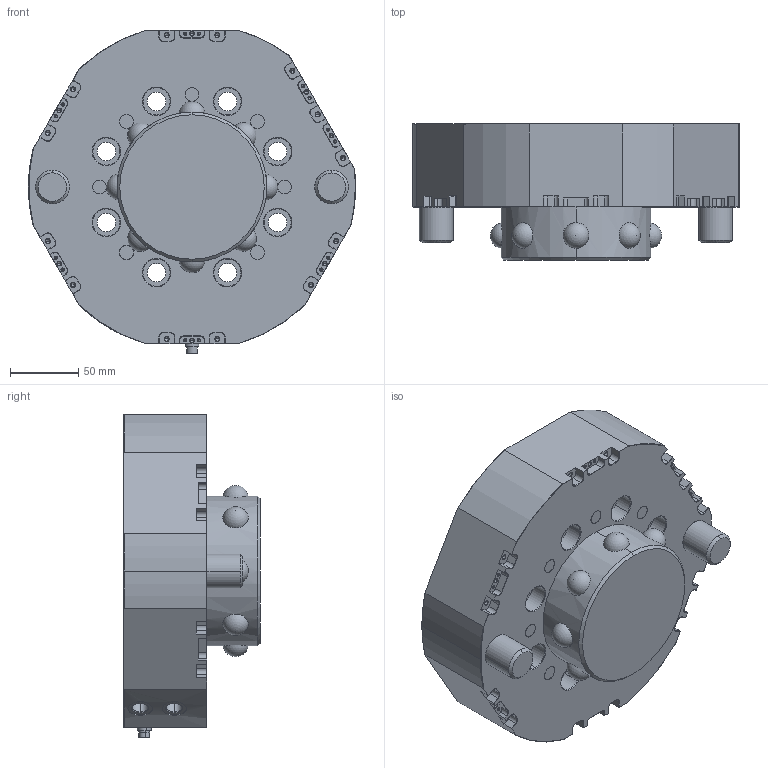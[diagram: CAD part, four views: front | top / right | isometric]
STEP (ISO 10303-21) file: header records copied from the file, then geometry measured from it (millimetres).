
FILE_DESCRIPTION (( 'STEP AP203' ), '1' );
FILE_NAME ('TSKP-M360-00主盘本体.STEP', '2021-08-12T09:32:41', ( '' ), ( '' ), 'SwSTEP 2.0', 'SolidWorks 2018', '' );
FILE_SCHEMA (( 'CONFIG_CONTROL_DESIGN' ));
Length unit declared in the file: millimetre
Products named in the file (1): TSKP-M360-00翋攫掛极
Bounding box: 240 x 100 x 237.3 mm (x, y, z)
Volume: 2912077.4 mm3; surface area: 210135.7 mm2
Topology: 1 solids, 15 shells, 1059 faces, 2535 edges, 1506 vertices
Faces by surface type: cylinder 376, plane 324, cone 266, torus 85, sphere 8
Entity records: 31300 total; most frequent: CARTESIAN_POINT 6878, DIRECTION 5394, ORIENTED_EDGE 4846, EDGE_CURVE 2423, AXIS2_PLACEMENT_3D 2077, VERTEX_POINT 1490, VECTOR 1240, LINE 1240
